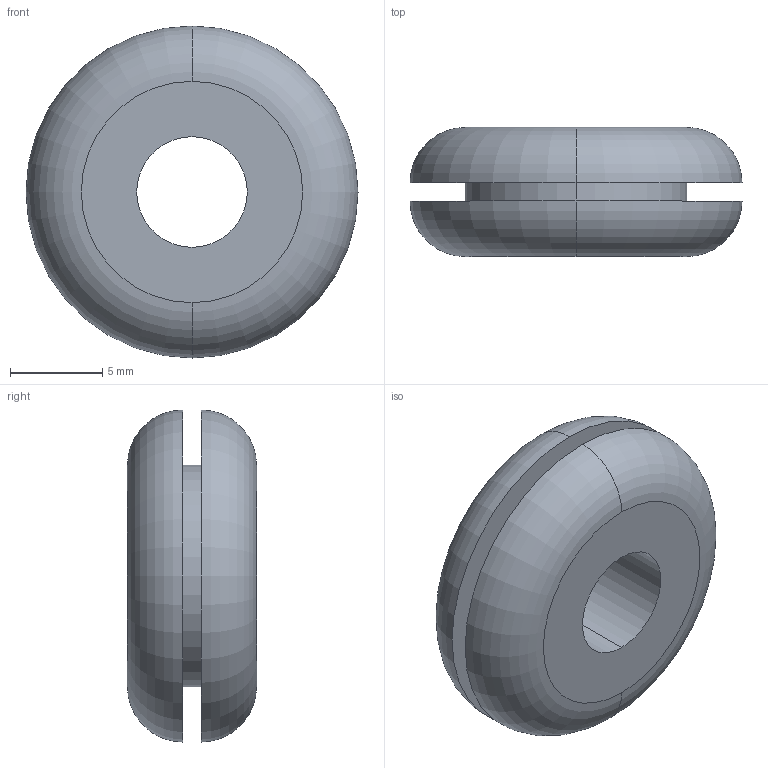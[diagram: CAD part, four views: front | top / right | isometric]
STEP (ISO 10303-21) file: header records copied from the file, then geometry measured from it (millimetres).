
FILE_DESCRIPTION (( 'STEP AP203' ), '1' );
FILE_NAME ('B-6-1.STEP', '2013-07-14T07:02:19', ( 'SDS' ), ( 'SDS' ), 'SwSTEP 2.0', 'SolidWorks 2002296', '' );
FILE_SCHEMA (( 'CONFIG_CONTROL_DESIGN' ));
Length unit declared in the file: millimetre
Products named in the file (1): B-6-1
Bounding box: 18 x 7 x 18 mm (x, y, z)
Volume: 1239.8 mm3; surface area: 1090.4 mm2
Topology: 1 solids, 1 shells, 12 faces, 24 edges, 16 vertices
Faces by surface type: cylinder 4, plane 4, torus 4
Entity records: 409 total; most frequent: DIRECTION 70, CARTESIAN_POINT 53, ORIENTED_EDGE 48, AXIS2_PLACEMENT_3D 33, EDGE_CURVE 24, CIRCLE 20, EDGE_LOOP 16, VERTEX_POINT 16
